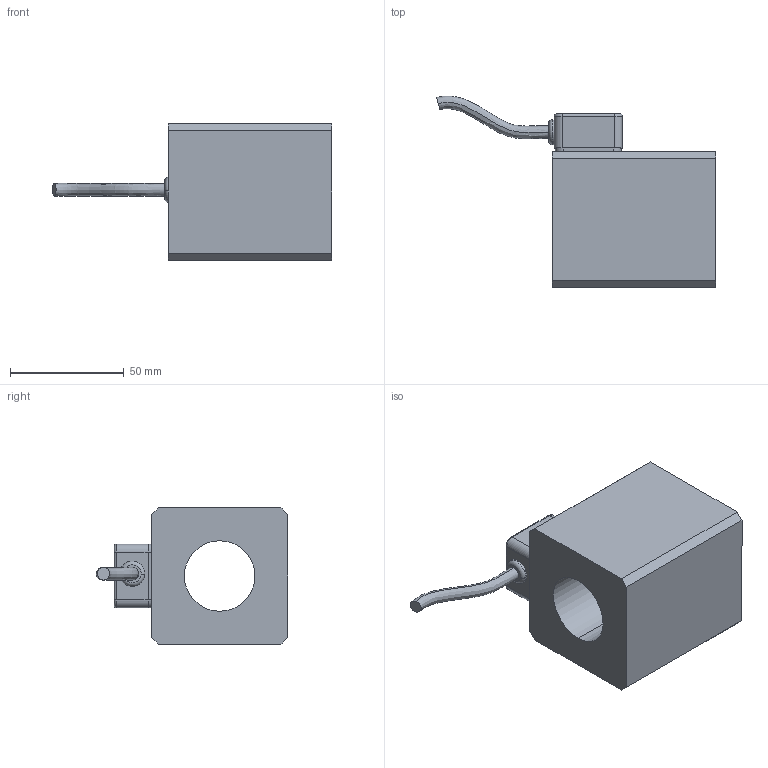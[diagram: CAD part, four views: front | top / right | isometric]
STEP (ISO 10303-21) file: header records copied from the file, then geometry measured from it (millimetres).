
FILE_DESCRIPTION (( 'STEP AP214' ), '1' );
FILE_NAME ('MKS60_31x72.STEP', '2015-07-17T07:47:48', ( '' ), ( '' ), 'SwSTEP 2.0', 'SolidWorks 2014', '' );
FILE_SCHEMA (( 'AUTOMOTIVE_DESIGN' ));
Length unit declared in the file: millimetre
Products named in the file (2): MKS60_31x72
Bounding box: 122.91 x 84.35 x 60 mm (x, y, z)
Volume: 224035.8 mm3; surface area: 43271.5 mm2
Topology: 6 solids, 7 shells, 213 faces, 521 edges, 326 vertices
Faces by surface type: plane 90, cylinder 77, torus 21, cone 18, sphere 5, bspline 2
Entity records: 8994 total; most frequent: CARTESIAN_POINT 1427, DIRECTION 1135, ORIENTED_EDGE 1028, EDGE_CURVE 514, AXIS2_PLACEMENT_3D 432, VERTEX_POINT 326, LINE 271, VECTOR 271
